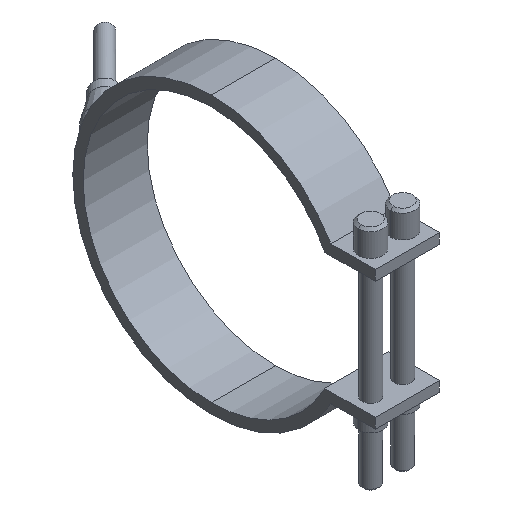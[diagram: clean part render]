
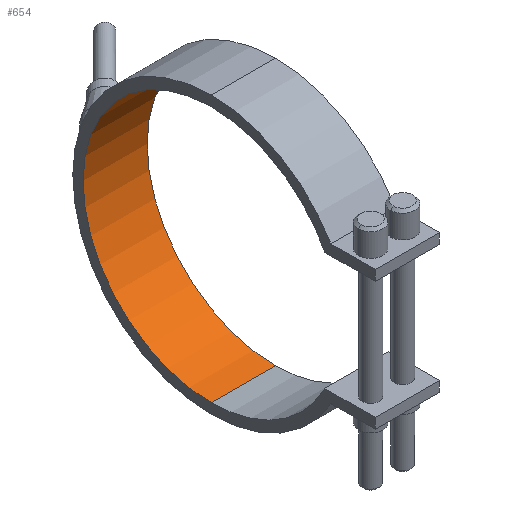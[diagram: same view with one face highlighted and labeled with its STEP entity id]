
A CAD part, isometric view. The second image highlights one B-rep face of the part: STEP entity #654.
In plain terms, the highlighted cylindrical face has radius 50 mm (diameter 100 mm), a partial arc.
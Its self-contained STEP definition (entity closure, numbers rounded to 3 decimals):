
#336=CARTESIAN_POINT('Vertex',(12.5,0.,50.)) ;
#341=CARTESIAN_POINT('Axis2P3D Location',(12.5,0.,0.)) ;
#345=CARTESIAN_POINT('Vertex',(12.5,0.,-50.)) ;
#452=CARTESIAN_POINT('Vertex',(-12.5,0.,-50.)) ;
#455=CARTESIAN_POINT('Axis2P3D Location',(-12.5,0.,0.)) ;
#459=CARTESIAN_POINT('Vertex',(-12.5,0.,50.)) ;
#626=CARTESIAN_POINT('Line Origine',(12.5,0.,50.)) ;
#638=CARTESIAN_POINT('Axis2P3D Location',(12.5,0.,0.)) ;
#643=CARTESIAN_POINT('Line Origine',(12.5,0.,-50.)) ;
#342=DIRECTION('Axis2P3D Direction',(1.,0.,0.)) ;
#456=DIRECTION('Axis2P3D Direction',(1.,0.,0.)) ;
#627=DIRECTION('Vector Direction',(1.,0.,0.)) ;
#639=DIRECTION('Axis2P3D Direction',(1.,0.,-0.)) ;
#640=DIRECTION('Axis2P3D XDirection',(0.,0.,-1.)) ;
#644=DIRECTION('Vector Direction',(1.,0.,0.)) ;
#343=AXIS2_PLACEMENT_3D('Circle Axis2P3D',#341,#342,$) ;
#457=AXIS2_PLACEMENT_3D('Circle Axis2P3D',#455,#456,$) ;
#641=AXIS2_PLACEMENT_3D('Cylinder Axis2P3D',#638,#639,#640) ;
#649=ORIENTED_EDGE('',*,*,#347,.T.) ;
#650=ORIENTED_EDGE('',*,*,#630,.T.) ;
#651=ORIENTED_EDGE('',*,*,#461,.F.) ;
#652=ORIENTED_EDGE('',*,*,#647,.T.) ;
#628=VECTOR('Line Direction',#627,1.) ;
#645=VECTOR('Line Direction',#644,1.) ;
#654=ADVANCED_FACE('29100025',(#653),#642,.F.) ;
#344=CIRCLE('generated circle',#343,50.) ;
#458=CIRCLE('generated circle',#457,50.) ;
#642=CYLINDRICAL_SURFACE('generated cylinder',#641,50.) ;
#347=EDGE_CURVE('',#346,#337,#344,.T.) ;
#461=EDGE_CURVE('',#453,#460,#458,.T.) ;
#630=EDGE_CURVE('',#337,#460,#629,.F.) ;
#647=EDGE_CURVE('',#453,#346,#646,.T.) ;
#648=EDGE_LOOP('',(#649,#650,#651,#652)) ;
#653=FACE_OUTER_BOUND('',#648,.T.) ;
#629=LINE('Line',#626,#628) ;
#646=LINE('Line',#643,#645) ;
#337=VERTEX_POINT('',#336) ;
#346=VERTEX_POINT('',#345) ;
#453=VERTEX_POINT('',#452) ;
#460=VERTEX_POINT('',#459) ;
